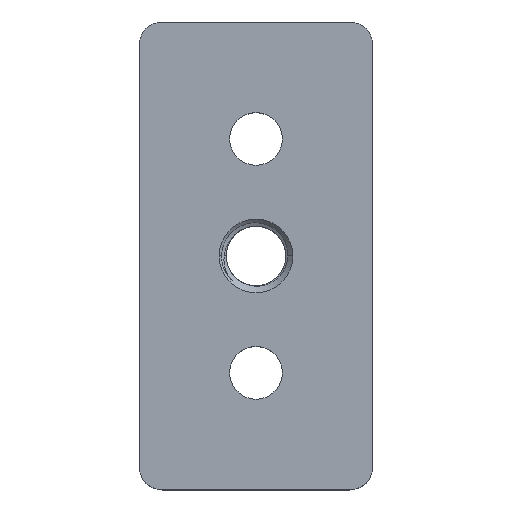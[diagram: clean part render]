
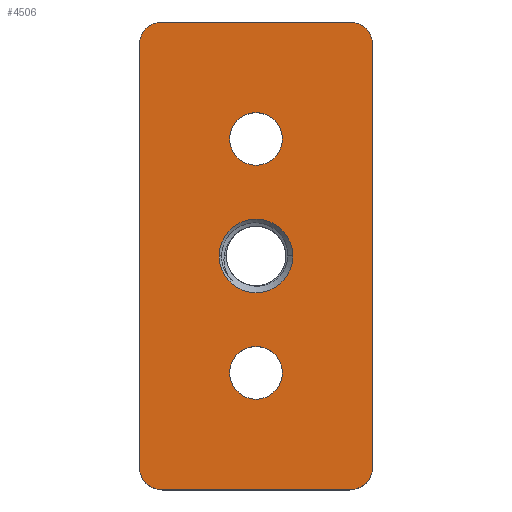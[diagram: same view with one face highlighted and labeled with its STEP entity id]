
A CAD part, top view. The second image highlights one B-rep face of the part: STEP entity #4506.
In plain terms, the highlighted planar face has unit normal (0, 0, 1).
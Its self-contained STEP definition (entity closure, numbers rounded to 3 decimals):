
#61 = CARTESIAN_POINT ( 'NONE',  ( 0., -20., 16. ) ) ;
#86 = AXIS2_PLACEMENT_3D ( 'NONE', #785, #3034, #4345 ) ;
#143 = EDGE_CURVE ( 'NONE', #2108, #4103, #1376, .T. ) ;
#164 = DIRECTION ( 'NONE',  ( 1., 0., 0. ) ) ;
#180 = CARTESIAN_POINT ( 'NONE',  ( 0., 0., 16. ) ) ;
#183 = CIRCLE ( 'NONE', #1674, 4. ) ;
#186 = DIRECTION ( 'NONE',  ( -1., 0., 0. ) ) ;
#216 = ORIENTED_EDGE ( 'NONE', *, *, #2375, .F. ) ;
#241 = DIRECTION ( 'NONE',  ( -1., 0., 0. ) ) ;
#244 = EDGE_CURVE ( 'NONE', #2135, #3032, #446, .T. ) ;
#278 = AXIS2_PLACEMENT_3D ( 'NONE', #2936, #4697, #5116 ) ;
#365 = CARTESIAN_POINT ( 'NONE',  ( 20., -36., 16. ) ) ;
#396 = ORIENTED_EDGE ( 'NONE', *, *, #1666, .T. ) ;
#446 = CIRCLE ( 'NONE', #86, 4.5 ) ;
#510 = LINE ( 'NONE', #4926, #645 ) ;
#539 = CARTESIAN_POINT ( 'NONE',  ( 20., 36., 16. ) ) ;
#557 = LINE ( 'NONE', #1987, #4362 ) ;
#612 = ORIENTED_EDGE ( 'NONE', *, *, #1164, .F. ) ;
#624 = DIRECTION ( 'NONE',  ( 0., 0., 1. ) ) ;
#640 = ORIENTED_EDGE ( 'NONE', *, *, #2980, .T. ) ;
#645 = VECTOR ( 'NONE', #1378, 1000. ) ;
#676 = CARTESIAN_POINT ( 'NONE',  ( 0., 20., 16. ) ) ;
#704 = EDGE_CURVE ( 'NONE', #4159, #4428, #5555, .T. ) ;
#785 = CARTESIAN_POINT ( 'NONE',  ( 0., -20., 16. ) ) ;
#810 = AXIS2_PLACEMENT_3D ( 'NONE', #4363, #1644, #1696 ) ;
#885 = VERTEX_POINT ( 'NONE', #4488 ) ;
#889 = DIRECTION ( 'NONE',  ( 1., 0., 0. ) ) ;
#938 = CARTESIAN_POINT ( 'NONE',  ( 4.5, -20., 16. ) ) ;
#969 = CARTESIAN_POINT ( 'NONE',  ( 20., 40., 16. ) ) ;
#1061 = CARTESIAN_POINT ( 'NONE',  ( 4.5, 20., 16. ) ) ;
#1081 = CARTESIAN_POINT ( 'NONE',  ( 16., 40., 16. ) ) ;
#1103 = DIRECTION ( 'NONE',  ( 0., 0., -1. ) ) ;
#1139 = CARTESIAN_POINT ( 'NONE',  ( 0., 0., 16. ) ) ;
#1164 = EDGE_CURVE ( 'NONE', #4826, #885, #2022, .T. ) ;
#1278 = CIRCLE ( 'NONE', #810, 4. ) ;
#1320 = CARTESIAN_POINT ( 'NONE',  ( 16., -40., 16. ) ) ;
#1368 = EDGE_CURVE ( 'NONE', #2839, #885, #1278, .T. ) ;
#1376 = CIRCLE ( 'NONE', #2777, 6.3 ) ;
#1378 = DIRECTION ( 'NONE',  ( 1., 0., 0. ) ) ;
#1391 = VECTOR ( 'NONE', #4518, 1000. ) ;
#1451 = DIRECTION ( 'NONE',  ( 0., 0., -1. ) ) ;
#1460 = CARTESIAN_POINT ( 'NONE',  ( -6.3, 0., 16. ) ) ;
#1510 = CARTESIAN_POINT ( 'NONE',  ( 16., -36., 16. ) ) ;
#1582 = AXIS2_PLACEMENT_3D ( 'NONE', #180, #2919, #2892 ) ;
#1593 = FACE_BOUND ( 'NONE', #3199, .T. ) ;
#1644 = DIRECTION ( 'NONE',  ( 0., 0., 1. ) ) ;
#1666 = EDGE_CURVE ( 'NONE', #4103, #2108, #4075, .T. ) ;
#1674 = AXIS2_PLACEMENT_3D ( 'NONE', #2466, #5576, #4672 ) ;
#1696 = DIRECTION ( 'NONE',  ( 1., 0., 0. ) ) ;
#1956 = CIRCLE ( 'NONE', #4088, 4. ) ;
#1960 = CARTESIAN_POINT ( 'NONE',  ( -4.5, 20., 16. ) ) ;
#1987 = CARTESIAN_POINT ( 'NONE',  ( -20., 40., 16. ) ) ;
#2022 = LINE ( 'NONE', #3734, #4175 ) ;
#2063 = EDGE_CURVE ( 'NONE', #4302, #4170, #2408, .T. ) ;
#2104 = ORIENTED_EDGE ( 'NONE', *, *, #4153, .F. ) ;
#2108 = VERTEX_POINT ( 'NONE', #4983 ) ;
#2135 = VERTEX_POINT ( 'NONE', #938 ) ;
#2186 = ORIENTED_EDGE ( 'NONE', *, *, #3299, .T. ) ;
#2262 = VERTEX_POINT ( 'NONE', #539 ) ;
#2268 = CARTESIAN_POINT ( 'NONE',  ( 0., 0., 16. ) ) ;
#2375 = EDGE_CURVE ( 'NONE', #4302, #4556, #510, .T. ) ;
#2380 = ORIENTED_EDGE ( 'NONE', *, *, #4882, .F. ) ;
#2408 = CIRCLE ( 'NONE', #5646, 4. ) ;
#2414 = CIRCLE ( 'NONE', #3252, 4.5 ) ;
#2466 = CARTESIAN_POINT ( 'NONE',  ( 16., 36., 16. ) ) ;
#2507 = FACE_BOUND ( 'NONE', #4008, .T. ) ;
#2545 = EDGE_CURVE ( 'NONE', #4826, #5671, #1956, .T. ) ;
#2636 = ORIENTED_EDGE ( 'NONE', *, *, #1368, .T. ) ;
#2694 = AXIS2_PLACEMENT_3D ( 'NONE', #1139, #624, #5073 ) ;
#2777 = AXIS2_PLACEMENT_3D ( 'NONE', #2268, #4870, #889 ) ;
#2829 = ORIENTED_EDGE ( 'NONE', *, *, #3191, .T. ) ;
#2839 = VERTEX_POINT ( 'NONE', #5337 ) ;
#2892 = DIRECTION ( 'NONE',  ( 1., 0., 0. ) ) ;
#2919 = DIRECTION ( 'NONE',  ( 0., 0., -1. ) ) ;
#2936 = CARTESIAN_POINT ( 'NONE',  ( 0., 20., 16. ) ) ;
#2980 = EDGE_CURVE ( 'NONE', #3032, #2135, #2414, .T. ) ;
#3007 = ORIENTED_EDGE ( 'NONE', *, *, #704, .T. ) ;
#3032 = VERTEX_POINT ( 'NONE', #5366 ) ;
#3034 = DIRECTION ( 'NONE',  ( 0., 0., -1. ) ) ;
#3125 = LINE ( 'NONE', #969, #1391 ) ;
#3191 = EDGE_CURVE ( 'NONE', #4428, #4159, #4273, .T. ) ;
#3199 = EDGE_LOOP ( 'NONE', ( #3007, #2829 ) ) ;
#3252 = AXIS2_PLACEMENT_3D ( 'NONE', #61, #1451, #5457 ) ;
#3287 = ORIENTED_EDGE ( 'NONE', *, *, #2063, .T. ) ;
#3299 = EDGE_CURVE ( 'NONE', #2262, #4556, #183, .T. ) ;
#3303 = FACE_BOUND ( 'NONE', #5532, .T. ) ;
#3602 = CARTESIAN_POINT ( 'NONE',  ( -16., 40., 16. ) ) ;
#3651 = DIRECTION ( 'NONE',  ( 0., 0., 1. ) ) ;
#3705 = FACE_OUTER_BOUND ( 'NONE', #4754, .T. ) ;
#3707 = DIRECTION ( 'NONE',  ( 1., 0., 0. ) ) ;
#3734 = CARTESIAN_POINT ( 'NONE',  ( 20., -40., 16. ) ) ;
#4008 = EDGE_LOOP ( 'NONE', ( #640, #5429 ) ) ;
#4075 = CIRCLE ( 'NONE', #1582, 6.3 ) ;
#4088 = AXIS2_PLACEMENT_3D ( 'NONE', #1510, #4235, #164 ) ;
#4103 = VERTEX_POINT ( 'NONE', #1460 ) ;
#4153 = EDGE_CURVE ( 'NONE', #2839, #4170, #557, .T. ) ;
#4159 = VERTEX_POINT ( 'NONE', #1960 ) ;
#4170 = VERTEX_POINT ( 'NONE', #5524 ) ;
#4175 = VECTOR ( 'NONE', #186, 1000. ) ;
#4235 = DIRECTION ( 'NONE',  ( 0., 0., 1. ) ) ;
#4273 = CIRCLE ( 'NONE', #278, 4.5 ) ;
#4302 = VERTEX_POINT ( 'NONE', #3602 ) ;
#4345 = DIRECTION ( 'NONE',  ( -1., 0., 0. ) ) ;
#4362 = VECTOR ( 'NONE', #5091, 1000. ) ;
#4363 = CARTESIAN_POINT ( 'NONE',  ( -16., -36., 16. ) ) ;
#4428 = VERTEX_POINT ( 'NONE', #1061 ) ;
#4488 = CARTESIAN_POINT ( 'NONE',  ( -16., -40., 16. ) ) ;
#4506 = ADVANCED_FACE ( 'NONE', ( #3303, #1593, #2507, #3705 ), #4602, .T. ) ;
#4518 = DIRECTION ( 'NONE',  ( 0., -1., 0. ) ) ;
#4556 = VERTEX_POINT ( 'NONE', #1081 ) ;
#4578 = CARTESIAN_POINT ( 'NONE',  ( -16., 36., 16. ) ) ;
#4602 = PLANE ( 'NONE',  #2694 ) ;
#4672 = DIRECTION ( 'NONE',  ( 1., 0., 0. ) ) ;
#4697 = DIRECTION ( 'NONE',  ( 0., 0., -1. ) ) ;
#4728 = ORIENTED_EDGE ( 'NONE', *, *, #143, .T. ) ;
#4754 = EDGE_LOOP ( 'NONE', ( #216, #3287, #2104, #2636, #612, #5668, #2380, #2186 ) ) ;
#4826 = VERTEX_POINT ( 'NONE', #1320 ) ;
#4870 = DIRECTION ( 'NONE',  ( 0., 0., -1. ) ) ;
#4882 = EDGE_CURVE ( 'NONE', #2262, #5671, #3125, .T. ) ;
#4926 = CARTESIAN_POINT ( 'NONE',  ( 20., 40., 16. ) ) ;
#4983 = CARTESIAN_POINT ( 'NONE',  ( 6.3, 0., 16. ) ) ;
#5073 = DIRECTION ( 'NONE',  ( 1., 0., 0. ) ) ;
#5091 = DIRECTION ( 'NONE',  ( 0., 1., 0. ) ) ;
#5116 = DIRECTION ( 'NONE',  ( -1., 0., 0. ) ) ;
#5180 = AXIS2_PLACEMENT_3D ( 'NONE', #676, #1103, #241 ) ;
#5337 = CARTESIAN_POINT ( 'NONE',  ( -20., -36., 16. ) ) ;
#5366 = CARTESIAN_POINT ( 'NONE',  ( -4.5, -20., 16. ) ) ;
#5429 = ORIENTED_EDGE ( 'NONE', *, *, #244, .T. ) ;
#5457 = DIRECTION ( 'NONE',  ( -1., 0., 0. ) ) ;
#5524 = CARTESIAN_POINT ( 'NONE',  ( -20., 36., 16. ) ) ;
#5532 = EDGE_LOOP ( 'NONE', ( #4728, #396 ) ) ;
#5555 = CIRCLE ( 'NONE', #5180, 4.5 ) ;
#5576 = DIRECTION ( 'NONE',  ( 0., 0., 1. ) ) ;
#5646 = AXIS2_PLACEMENT_3D ( 'NONE', #4578, #3651, #3707 ) ;
#5668 = ORIENTED_EDGE ( 'NONE', *, *, #2545, .T. ) ;
#5671 = VERTEX_POINT ( 'NONE', #365 ) ;
